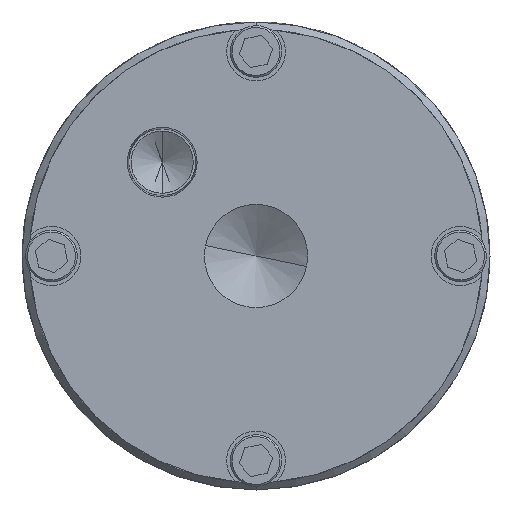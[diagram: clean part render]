
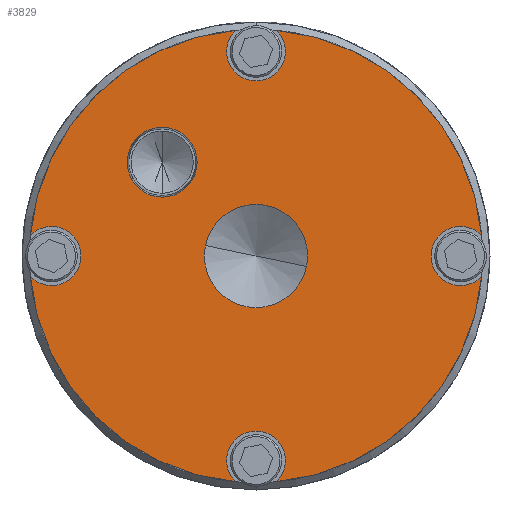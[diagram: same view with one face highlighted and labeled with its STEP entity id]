
A CAD part, front view. The second image highlights one B-rep face of the part: STEP entity #3829.
In plain terms, the highlighted planar face has unit normal (0, -1, 0).
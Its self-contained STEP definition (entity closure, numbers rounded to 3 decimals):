
#2903=CARTESIAN_POINT('',(-12.728,-87.1,-12.728));
#2904=DIRECTION('',(0.,1.,0.));
#2905=DIRECTION('',(1.,0.,0.));
#2906=AXIS2_PLACEMENT_3D('',#2903,#2904,#2905);
#2911=CARTESIAN_POINT('',(-12.728,-87.1,-12.728));
#2912=DIRECTION('',(0.,1.,0.));
#2913=DIRECTION('',(-1.,0.,0.));
#2914=AXIS2_PLACEMENT_3D('',#2911,#2912,#2913);
#2919=CARTESIAN_POINT('',(0.,-87.1,0.));
#2920=DIRECTION('',(0.,-1.,0.));
#2921=DIRECTION('',(0.996,0.,0.09));
#2922=AXIS2_PLACEMENT_3D('',#2919,#2920,#2921);
#2927=CARTESIAN_POINT('',(27.75,-87.1,0.));
#2928=DIRECTION('',(0.,1.,0.));
#2929=DIRECTION('',(-1.,0.,0.));
#2930=AXIS2_PLACEMENT_3D('',#2927,#2928,#2929);
#2935=CARTESIAN_POINT('',(27.75,-87.1,0.));
#2936=DIRECTION('',(0.,1.,0.));
#2937=DIRECTION('',(0.718,0.,-0.696));
#2938=AXIS2_PLACEMENT_3D('',#2935,#2936,#2937);
#2943=CARTESIAN_POINT('',(0.,-87.1,0.));
#2944=DIRECTION('',(0.,-1.,0.));
#2945=DIRECTION('',(0.09,0.,-0.996));
#2946=AXIS2_PLACEMENT_3D('',#2943,#2944,#2945);
#2951=CARTESIAN_POINT('',(0.,-87.1,-27.75));
#2952=DIRECTION('',(0.,1.,0.));
#2953=DIRECTION('',(1.,0.,0.));
#2954=AXIS2_PLACEMENT_3D('',#2951,#2952,#2953);
#2959=CARTESIAN_POINT('',(0.,-87.1,-27.75));
#2960=DIRECTION('',(0.,1.,0.));
#2961=DIRECTION('',(-1.,0.,0.));
#2962=AXIS2_PLACEMENT_3D('',#2959,#2960,#2961);
#2967=CARTESIAN_POINT('',(0.,-87.1,-27.75));
#2968=DIRECTION('',(0.,1.,0.));
#2969=DIRECTION('',(-0.696,0.,-0.718));
#2970=AXIS2_PLACEMENT_3D('',#2967,#2968,#2969);
#2975=CARTESIAN_POINT('',(0.,-87.1,0.));
#2976=DIRECTION('',(0.,-1.,0.));
#2977=DIRECTION('',(-0.996,0.,-0.09));
#2978=AXIS2_PLACEMENT_3D('',#2975,#2976,#2977);
#2983=CARTESIAN_POINT('',(-27.75,-87.1,0.));
#2984=DIRECTION('',(0.,1.,0.));
#2985=DIRECTION('',(1.,0.,0.));
#2986=AXIS2_PLACEMENT_3D('',#2983,#2984,#2985);
#2991=CARTESIAN_POINT('',(-27.75,-87.1,0.));
#2992=DIRECTION('',(0.,1.,0.));
#2993=DIRECTION('',(-0.718,0.,0.696));
#2994=AXIS2_PLACEMENT_3D('',#2991,#2992,#2993);
#2999=CARTESIAN_POINT('',(0.,-87.1,0.));
#3000=DIRECTION('',(0.,-1.,0.));
#3001=DIRECTION('',(-0.09,0.,0.996));
#3002=AXIS2_PLACEMENT_3D('',#2999,#3000,#3001);
#3007=CARTESIAN_POINT('',(0.,-87.1,27.75));
#3008=DIRECTION('',(0.,1.,0.));
#3009=DIRECTION('',(-1.,0.,0.));
#3010=AXIS2_PLACEMENT_3D('',#3007,#3008,#3009);
#3015=CARTESIAN_POINT('',(0.,-87.1,27.75));
#3016=DIRECTION('',(0.,1.,0.));
#3017=DIRECTION('',(1.,0.,0.));
#3018=AXIS2_PLACEMENT_3D('',#3015,#3016,#3017);
#3023=CARTESIAN_POINT('',(0.,-87.1,27.75));
#3024=DIRECTION('',(0.,1.,0.));
#3025=DIRECTION('',(0.696,0.,0.718));
#3026=AXIS2_PLACEMENT_3D('',#3023,#3024,#3025);
#3031=CARTESIAN_POINT('',(0.,-87.1,0.));
#3032=DIRECTION('',(0.,1.,0.));
#3033=DIRECTION('',(1.,0.,0.));
#3034=AXIS2_PLACEMENT_3D('',#3031,#3032,#3033);
#3039=CARTESIAN_POINT('',(0.,-87.1,0.));
#3040=DIRECTION('',(0.,1.,0.));
#3041=DIRECTION('',(-1.,0.,0.));
#3042=AXIS2_PLACEMENT_3D('',#3039,#3040,#3041);
#3564=CARTESIAN_POINT('',(-7.984,-87.1,-12.728));
#3565=VERTEX_POINT('',#3564);
#3566=CARTESIAN_POINT('',(-17.472,-87.1,-12.728));
#3567=VERTEX_POINT('',#3566);
#3586=CARTESIAN_POINT('',(4.,-87.1,27.75));
#3587=VERTEX_POINT('',#3586);
#3588=CARTESIAN_POINT('',(2.782,-87.1,30.624));
#3589=VERTEX_POINT('',#3588);
#3596=CARTESIAN_POINT('',(-4.,-87.1,27.75));
#3597=VERTEX_POINT('',#3596);
#3600=CARTESIAN_POINT('',(30.624,-87.1,2.782));
#3601=VERTEX_POINT('',#3600);
#3610=CARTESIAN_POINT('',(7.,-87.1,0.));
#3611=CARTESIAN_POINT('',(-7.,-87.1,0.));
#3612=VERTEX_POINT('',#3610);
#3613=VERTEX_POINT('',#3611);
#3614=CARTESIAN_POINT('',(23.75,-87.1,0.));
#3615=VERTEX_POINT('',#3614);
#3620=CARTESIAN_POINT('',(30.624,-87.1,-2.782));
#3621=VERTEX_POINT('',#3620);
#3622=CARTESIAN_POINT('',(-2.782,-87.1,30.624));
#3623=VERTEX_POINT('',#3622);
#3640=CARTESIAN_POINT('',(-30.624,-87.1,2.782));
#3641=VERTEX_POINT('',#3640);
#3646=CARTESIAN_POINT('',(2.782,-87.1,-30.624));
#3647=VERTEX_POINT('',#3646);
#3654=CARTESIAN_POINT('',(-23.75,-87.1,0.));
#3655=CARTESIAN_POINT('',(-30.624,-87.1,-2.782));
#3656=VERTEX_POINT('',#3654);
#3657=VERTEX_POINT('',#3655);
#3668=CARTESIAN_POINT('',(4.,-87.1,-27.75));
#3669=VERTEX_POINT('',#3668);
#3672=CARTESIAN_POINT('',(-4.,-87.1,-27.75));
#3673=VERTEX_POINT('',#3672);
#3676=CARTESIAN_POINT('',(-2.782,-87.1,-30.624));
#3677=VERTEX_POINT('',#3676);
#3784=CARTESIAN_POINT('',(0.,-87.1,0.));
#3785=DIRECTION('',(0.,1.,0.));
#3786=DIRECTION('',(1.,0.,0.));
#3787=AXIS2_PLACEMENT_3D('',#3784,#3785,#3786);
#3788=PLANE('',#3787);
#3790=ORIENTED_EDGE('',*,*,#3789,.F.);
#3792=ORIENTED_EDGE('',*,*,#3791,.F.);
#3794=ORIENTED_EDGE('',*,*,#3793,.F.);
#3796=ORIENTED_EDGE('',*,*,#3795,.F.);
#3798=ORIENTED_EDGE('',*,*,#3797,.F.);
#3800=ORIENTED_EDGE('',*,*,#3799,.F.);
#3802=ORIENTED_EDGE('',*,*,#3801,.F.);
#3804=ORIENTED_EDGE('',*,*,#3803,.F.);
#3806=ORIENTED_EDGE('',*,*,#3805,.F.);
#3808=ORIENTED_EDGE('',*,*,#3807,.F.);
#3810=ORIENTED_EDGE('',*,*,#3809,.F.);
#3812=ORIENTED_EDGE('',*,*,#3811,.F.);
#3814=ORIENTED_EDGE('',*,*,#3813,.F.);
#3816=ORIENTED_EDGE('',*,*,#3815,.F.);
#3817=EDGE_LOOP('',(#3790,#3792,#3794,#3796,#3798,#3800,#3802,#3804,#3806,#3808,
#3810,#3812,#3814,#3816));
#3818=FACE_OUTER_BOUND('',#3817,.F.);
#3819=ORIENTED_EDGE('',*,*,#3777,.F.);
#3820=ORIENTED_EDGE('',*,*,#3695,.F.);
#3821=EDGE_LOOP('',(#3819,#3820));
#3822=FACE_BOUND('',#3821,.F.);
#3824=ORIENTED_EDGE('',*,*,#3823,.F.);
#3826=ORIENTED_EDGE('',*,*,#3825,.F.);
#3827=EDGE_LOOP('',(#3824,#3826));
#3828=FACE_BOUND('',#3827,.F.);
#2907=CIRCLE('',#2906,4.744);
#2915=CIRCLE('',#2914,4.744);
#2923=CIRCLE('',#2922,30.75);
#2931=CIRCLE('',#2930,4.);
#2939=CIRCLE('',#2938,4.);
#2947=CIRCLE('',#2946,30.75);
#2955=CIRCLE('',#2954,4.);
#2963=CIRCLE('',#2962,4.);
#2971=CIRCLE('',#2970,4.);
#2979=CIRCLE('',#2978,30.75);
#2987=CIRCLE('',#2986,4.);
#2995=CIRCLE('',#2994,4.);
#3003=CIRCLE('',#3002,30.75);
#3011=CIRCLE('',#3010,4.);
#3019=CIRCLE('',#3018,4.);
#3027=CIRCLE('',#3026,4.);
#3035=CIRCLE('',#3034,7.);
#3043=CIRCLE('',#3042,7.);
#3695=EDGE_CURVE('',#3567,#3565,#2915,.T.);
#3777=EDGE_CURVE('',#3565,#3567,#2907,.T.);
#3789=EDGE_CURVE('',#3601,#3589,#2923,.T.);
#3791=EDGE_CURVE('',#3615,#3601,#2931,.T.);
#3793=EDGE_CURVE('',#3621,#3615,#2939,.T.);
#3795=EDGE_CURVE('',#3647,#3621,#2947,.T.);
#3797=EDGE_CURVE('',#3669,#3647,#2955,.T.);
#3799=EDGE_CURVE('',#3673,#3669,#2963,.T.);
#3801=EDGE_CURVE('',#3677,#3673,#2971,.T.);
#3803=EDGE_CURVE('',#3657,#3677,#2979,.T.);
#3805=EDGE_CURVE('',#3656,#3657,#2987,.T.);
#3807=EDGE_CURVE('',#3641,#3656,#2995,.T.);
#3809=EDGE_CURVE('',#3623,#3641,#3003,.T.);
#3811=EDGE_CURVE('',#3597,#3623,#3011,.T.);
#3813=EDGE_CURVE('',#3587,#3597,#3019,.T.);
#3815=EDGE_CURVE('',#3589,#3587,#3027,.T.);
#3823=EDGE_CURVE('',#3612,#3613,#3035,.T.);
#3825=EDGE_CURVE('',#3613,#3612,#3043,.T.);
#3829=ADVANCED_FACE('',(#3818,#3822,#3828),#3788,.F.);
